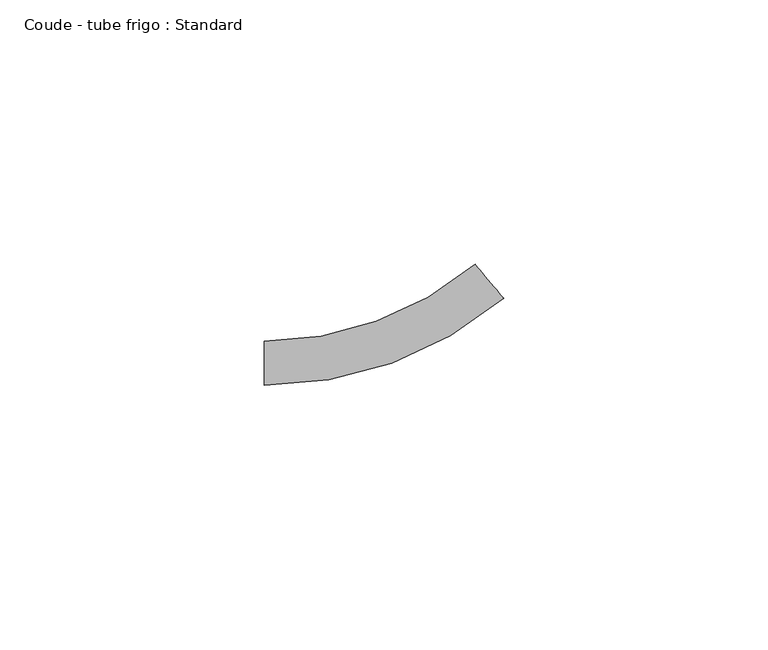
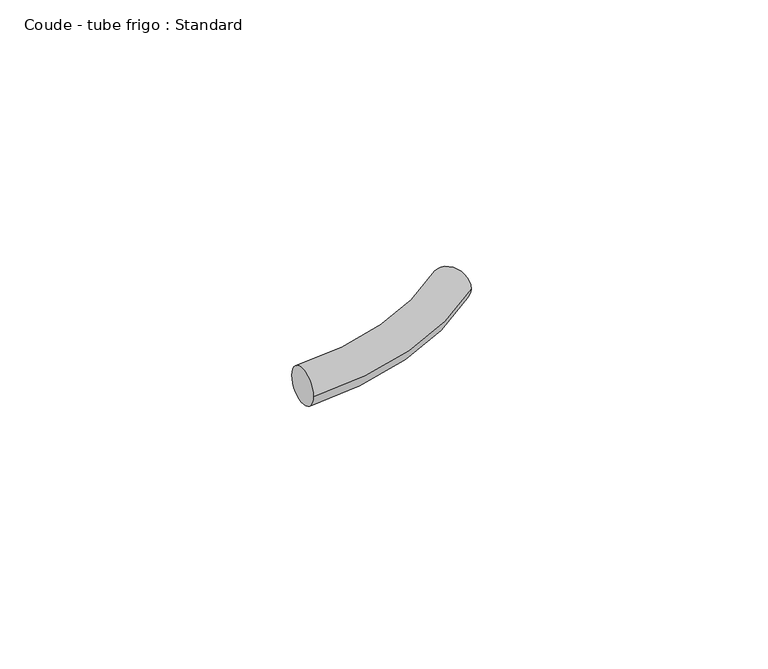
"""IFC4 building model written with IfcOpenShell, lengths in millimetres: pipe fitting geometry, Coude - tube frigo : Standard."""

from ifc_helpers import new_model, si_unit, point, frame, origin, place, context, project, spatial, circle_curve, ellipse_curve, trimmed, source, transform, mapped, element, save
from ifc_brep_helpers import plane_surface, revolved_surface, advanced_brep


def coude_tube_frigo_standard_225da247(model_context):
    return source(origin(), model_context, "Body", "AdvancedBrep", [
        advanced_brep(
        [(-24.1, -4.2, 0.0), (-24.1, 4.2, 0.0), (21.161379, 12.2737947, 0.0), (15.7619631, 18.7085681, 0.0)],
        [
            (0, 1, circle_curve(frame((-24.1, 0.0, 0.0), z_axis=(-1.0, 0.0, 0.0), x_axis=(0.0, 1.0, 0.0)), 4.2)),
            (1, 0, circle_curve(frame((-24.1, 0.0, 0.0), z_axis=(-1.0, 0.0, 0.0), x_axis=(0.0, 1.0, 0.0)), 4.2)),
            (2, 3, circle_curve(frame((18.4616711, 15.4911814, 0.0), z_axis=(0.7660444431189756, 0.6427876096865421, 0.0), x_axis=(-0.6427876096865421, 0.7660444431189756, 0.0)), 4.2)),
            (3, 2, circle_curve(frame((18.4616711, 15.4911814, 0.0), z_axis=(0.7660444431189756, 0.6427876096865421, 0.0), x_axis=(-0.6427876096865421, 0.7660444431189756, 0.0)), 4.2)),
            (3, 1, circle_curve(frame((-24.1, 66.2142058, 0.0), z_axis=(0.0, 0.0, -1.0), x_axis=(0.0, -1.0, 0.0)), 62.0142058)),
            (0, 2, circle_curve(frame((-24.1, 66.2142058, 0.0), z_axis=(0.0, 0.0, 1.0), x_axis=(0.0, -1.0, 0.0)), 70.4142058)),
        ],
        [
            plane_surface(frame((-24.1, 0.0, 0.0), z_axis=(-1.0, 0.0, 0.0), x_axis=(0.0, 0.0, 1.0))),
            plane_surface(frame((18.4616711, 15.4911814, 0.0), z_axis=(0.7660444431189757, 0.6427876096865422, 0.0), x_axis=(0.0, 0.0, 1.0))),
            revolved_surface(trimmed(ellipse_curve(frame((-24.1, 0.0, 0.0), z_axis=(-1.0, 0.0, 0.0), x_axis=(0.0, 1.0, 0.0)), 4.2, 4.2), [point((-24.1, -4.2, 0.0))], [point((-24.1, 4.2, 0.0))], True, "CARTESIAN"), (-24.1, 66.2142058, 0.0), (0.0, 0.0, 1.0)),
            revolved_surface(trimmed(ellipse_curve(frame((-24.1, 0.0, 0.0), z_axis=(-1.0, 0.0, 0.0), x_axis=(0.0, 1.0, 0.0)), 4.2, 4.2), [point((-24.1, 4.2, 0.0))], [point((-24.1, -4.2, 0.0))], True, "CARTESIAN"), (-24.1, 66.2142058, 0.0), (0.0, 0.0, 1.0)),
        ],
        [
            (0, [[1, 2]]),
            (1, [[3, 4]]),
            (2, [[5, -1, 6, -4]]),
            (3, [[-6, -2, -5, -3]]),
        ],
    ),
    ])


if __name__ == "__main__":
    model = new_model("IFC4")
    model_context = context("Model", 3, world=origin())
    ifc_project = project(units=[si_unit("LENGTHUNIT", "METRE", prefix="MILLI")], contexts=[model_context])
    site = spatial("IfcSite", under=ifc_project)
    building = spatial("IfcBuilding", under=site)
    placement = place(None, origin())
    coude_tube_frigo_standard_shape = coude_tube_frigo_standard_225da247(model_context)
    element("IfcPipeFitting", 1, ObjectType="Coude - tube frigo : Standard", at=placement, inside=building, context=model_context, shape_type="MappedRepresentation", body=[
        mapped(coude_tube_frigo_standard_shape, transform((0.0, 0.0, 0.0), x_axis=(1.0, 0.0, 0.0), y_axis=(0.0, 1.0, 0.0), z_axis=(0.0, 0.0, 1.0))),
    ])
    save(model, "model.ifc")
